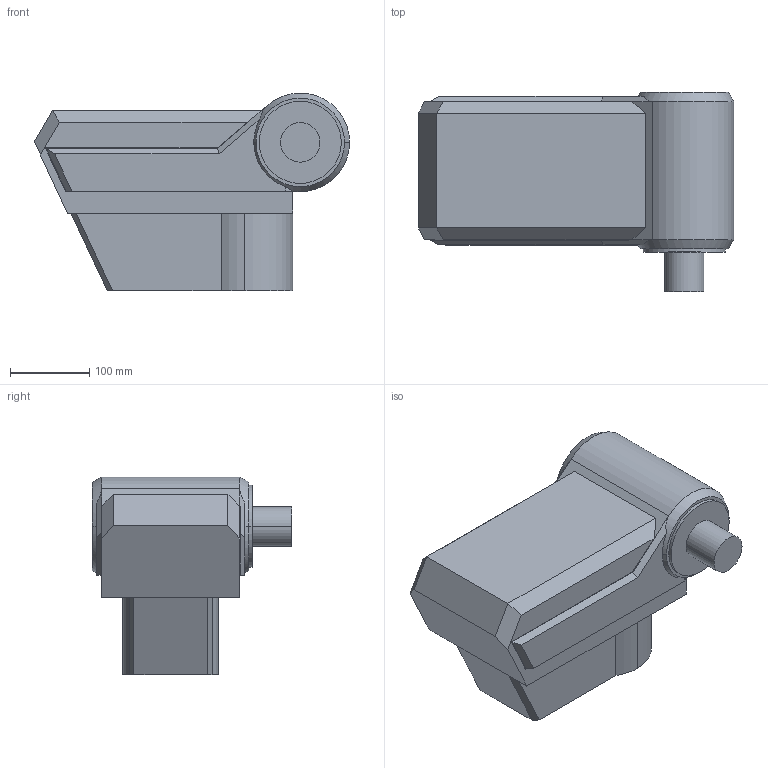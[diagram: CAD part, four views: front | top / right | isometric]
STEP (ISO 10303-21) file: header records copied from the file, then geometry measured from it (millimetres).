
FILE_DESCRIPTION (( 'STEP AP214' ), '1' );
FILE_NAME ('Joint1.STEP', '2019-03-22T05:09:50', ( '' ), ( '' ), 'SwSTEP 2.0', 'SolidWorks 2018', '' );
FILE_SCHEMA (( 'AUTOMOTIVE_DESIGN' ));
Length unit declared in the file: millimetre
Products named in the file (2): Joint1; Scorbot_ER9-1_Predeterminado
Assembly tree (1 placements, depth 2):
  Joint1
    Scorbot_ER9-1_Predeterminado
Bounding box: 399.02 x 252 x 250.4 mm (x, y, z)
Volume: 11395075.4 mm3; surface area: 354424.9 mm2
Topology: 1 solids, 1 shells, 191 faces, 500 edges, 329 vertices
Faces by surface type: plane 133, cylinder 54, cone 4
Entity records: 6079 total; most frequent: CARTESIAN_POINT 1060, ORIENTED_EDGE 1000, DIRECTION 985, EDGE_CURVE 500, LINE 381, VECTOR 381, VERTEX_POINT 329, AXIS2_PLACEMENT_3D 302
